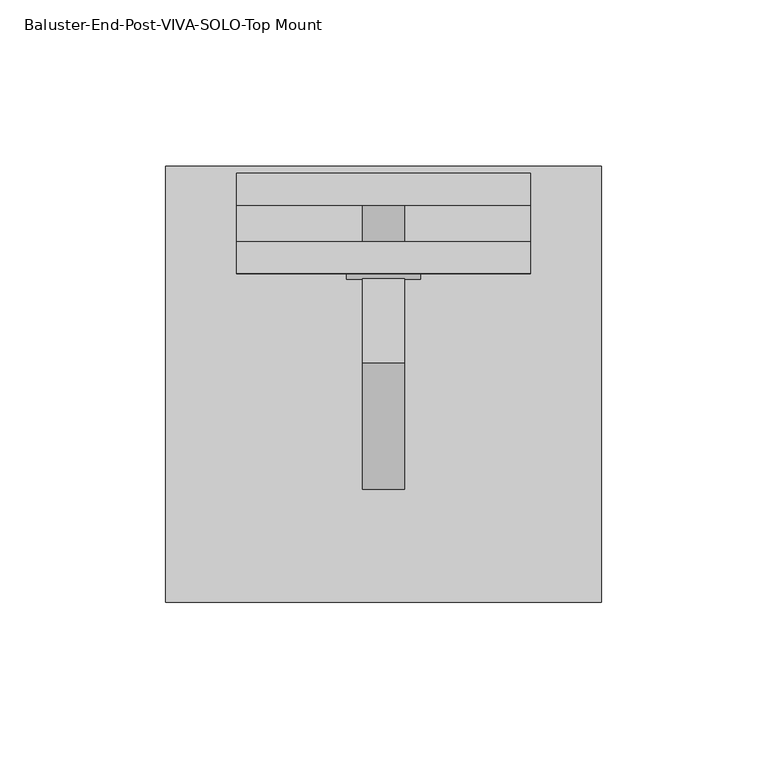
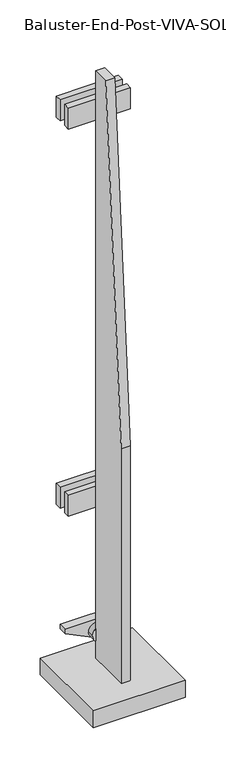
"""IFC4 building model written with IfcOpenShell, lengths in millimetres: proxy geometry, Baluster-End-Post-VIVA-SOLO-Top Mount : ANCHORED TO CONCRETE_TOP MOUNT FOLD_STRAIGHT."""

import ifcopenshell
import ifcopenshell.guid

model = None  # the IFC model being written
_history = None  # IfcOwnerHistory: only IFC2X3 demands one
_inside = {}  # id of a spatial element -> (the spatial element, [elements in it])
_under = {}  # id of a project, library or spatial element -> (it, [spatial elements below it])
_declared = {}  # id of a project -> (the project, [libraries it declares])
_typed = {}  # id of a type object -> (the type object, [elements of that type])
_made_of = {}  # id of a material, layer set ... -> (it, [elements and type objects made of it])


def new_model(schema):
    """Start an empty IFC model of exactly this schema.

    Asked for "IFC4X3", IfcOpenShell would pick the latest addendum, in which some entities
    have other attributes; the version numbers below select the first issue.
    IFC2X3 requires an IfcOwnerHistory on every rooted entity: one is made here for all.
    """
    global model, _history
    if schema == "IFC4X3":
        model = ifcopenshell.file(schema_version=(4, 3, 0, 0))
    else:
        model = ifcopenshell.file(schema=schema)
    _inside.clear()
    _under.clear()
    _declared.clear()
    _typed.clear()
    _made_of.clear()
    _history = None
    if model.schema == "IFC2X3":
        org = make("IfcOrganization", Name="unknown")
        user = make(
            "IfcPersonAndOrganization",
            ThePerson=make("IfcPerson", FamilyName="unknown"),
            TheOrganization=org,
        )
        app = make(
            "IfcApplication",
            ApplicationDeveloper=org,
            Version="unknown",
            ApplicationFullName="unknown",
            ApplicationIdentifier="unknown",
        )
        _history = make(
            "IfcOwnerHistory",
            OwningUser=user,
            OwningApplication=app,
            ChangeAction="ADDED",
            CreationDate=0,
        )
    return model


def make(cls, **values):
    """One entity of the class cls with the attributes given. An attribute that is None is left unset."""
    return model.create_entity(
        cls, **{name: value for name, value in values.items() if value is not None}
    )


def rooted(cls, **values):
    """An entity with a GlobalId (a new one), such as an element, a storey or a relation."""
    return make(cls, GlobalId=ifcopenshell.guid.new(), OwnerHistory=_history, **values)


def si_unit(unit_type, name, prefix=None):
    """IfcSIUnit, for example si_unit("LENGTHUNIT", "METRE", prefix="MILLI")."""
    return make("IfcSIUnit", UnitType=unit_type, Prefix=prefix, Name=name)


def assignment(units):
    """IfcUnitAssignment: the units of a project."""
    return None if units is None else make("IfcUnitAssignment", Units=units)


def point(xyz):
    """IfcCartesianPoint."""
    return None if xyz is None else make("IfcCartesianPoint", Coordinates=xyz)


def direction(xyz):
    """IfcDirection."""
    return None if xyz is None else make("IfcDirection", DirectionRatios=xyz)


def frame(location, z_axis=None, x_axis=None):
    """IfcAxis2Placement3D, a coordinate frame: its origin and axes. An axis left out is left unset."""
    return make(
        "IfcAxis2Placement3D",
        Location=point(location),
        Axis=direction(z_axis),
        RefDirection=direction(x_axis),
    )


def frame_2d(location, x_axis=None):
    """IfcAxis2Placement2D, a coordinate frame in the plane: its origin and x axis."""
    return make(
        "IfcAxis2Placement2D", Location=point(location), RefDirection=direction(x_axis)
    )


def origin():
    """The frame at (0, 0, 0) with its axes left unset."""
    return frame((0.0, 0.0, 0.0))


def place(relative_to, where):
    """IfcLocalPlacement: puts the frame where relative to a parent placement (None: the world)."""
    return make(
        "IfcLocalPlacement", PlacementRelTo=relative_to, RelativePlacement=where
    )


def context(
    kind, dimensions, precision=None, world=None, true_north=None, identifier=None
):
    """IfcGeometricRepresentationContext, for example the 3D "Model" context."""
    return make(
        "IfcGeometricRepresentationContext",
        ContextIdentifier=identifier,
        ContextType=kind,
        CoordinateSpaceDimension=dimensions,
        Precision=precision,
        WorldCoordinateSystem=world,
        TrueNorth=true_north,
    )


def project(units=None, contexts=None):
    """IfcProject with its units and contexts."""
    return rooted(
        "IfcProject",
        Name="project",
        RepresentationContexts=contexts,
        UnitsInContext=assignment(units),
    )


def spatial(cls, under=None, at=None, **own):
    """A site, building, storey or space (cls), placed at a placement, below another one or the project."""
    s = rooted(cls, ObjectPlacement=at, **own)
    if under is not None:
        _under.setdefault(under.id(), (under, []))[1].append(s)
    return s


def polyline(points):
    """IfcPolyline through the points."""
    return make("IfcPolyline", Points=[point(p) for p in points])


def circle_curve(where, radius):
    """IfcCircle in the frame where."""
    return make("IfcCircle", Position=where, Radius=radius)


def trimmed(basis, trim1, trim2, sense, master):
    """IfcTrimmedCurve: the piece of a basis curve between two trims."""
    return make(
        "IfcTrimmedCurve",
        BasisCurve=basis,
        Trim1=trim1,
        Trim2=trim2,
        SenseAgreement=sense,
        MasterRepresentation=master,
    )


def segment(curve, same_sense, transition):
    """IfcCompositeCurveSegment."""
    return make(
        "IfcCompositeCurveSegment",
        Transition=transition,
        SameSense=same_sense,
        ParentCurve=curve,
    )


def composite_curve(segments, self_intersect=None):
    """IfcCompositeCurve: segments joined end to end."""
    return make("IfcCompositeCurve", Segments=segments, SelfIntersect=self_intersect)


def outline(outer, holes=None, kind="AREA"):
    """IfcArbitraryClosedProfileDef: a profile drawn as a closed curve; with holes, ...WithVoids."""
    if holes is None:
        return make("IfcArbitraryClosedProfileDef", ProfileType=kind, OuterCurve=outer)
    return make(
        "IfcArbitraryProfileDefWithVoids",
        ProfileType=kind,
        OuterCurve=outer,
        InnerCurves=holes,
    )


def extrude(swept, where, along, depth):
    """IfcExtrudedAreaSolid: the profile swept, set in the frame where, extruded along a direction by depth."""
    return make(
        "IfcExtrudedAreaSolid",
        SweptArea=swept,
        Position=where,
        ExtrudedDirection=direction(along),
        Depth=depth,
    )


def shape(context_of_items, identifier, shape_type, items):
    """IfcShapeRepresentation: the items that make up one representation, for example the "Body"."""
    return make(
        "IfcShapeRepresentation",
        ContextOfItems=context_of_items,
        RepresentationIdentifier=identifier,
        RepresentationType=shape_type,
        Items=items,
    )


def source(mapping_origin, context_of_items, identifier, shape_type, items):
    """IfcRepresentationMap: a shape defined once, which mapped items show again and again."""
    return make(
        "IfcRepresentationMap",
        MappingOrigin=mapping_origin,
        MappedRepresentation=shape(context_of_items, identifier, shape_type, items),
    )


def transform(
    local_origin,
    x_axis=None,
    y_axis=None,
    z_axis=None,
    scale=None,
    scale2=None,
    scale3=None,
    uniform=True,
):
    """IfcCartesianTransformationOperator3D, or its non-uniform kind. x_axis, y_axis, z_axis: its Axis1, 2, 3."""
    if uniform:
        return make(
            "IfcCartesianTransformationOperator3D",
            Axis1=direction(x_axis),
            Axis2=direction(y_axis),
            LocalOrigin=point(local_origin),
            Scale=scale,
            Axis3=direction(z_axis),
        )
    return make(
        "IfcCartesianTransformationOperator3DnonUniform",
        Axis1=direction(x_axis),
        Axis2=direction(y_axis),
        LocalOrigin=point(local_origin),
        Scale=scale,
        Axis3=direction(z_axis),
        Scale2=scale2,
        Scale3=scale3,
    )


def mapped(mapping_source, mapping_target):
    """IfcMappedItem: shows the shape of a source again, moved by a transform."""
    return make(
        "IfcMappedItem", MappingSource=mapping_source, MappingTarget=mapping_target
    )


def made_of(thing, what):
    """Note that an element or type object is made of a material, layer set ...; save() writes the relation."""
    if what is not None:
        _made_of.setdefault(what.id(), (what, []))[1].append(thing)
    return thing


def element(
    cls,
    number,
    at=None,
    inside=None,
    cuts=None,
    type_object=None,
    material=None,
    context=None,
    identifier="Body",
    shape_type=None,
    held_by="IfcProductDefinitionShape",
    body=None,
    shapes=None,
    **own,
):
    """One element of the class cls, such as IfcWall. Its Tag is "e" and its number.

    at: its placement. inside: the storey or other place that contains it. cuts: it is an
    opening in that element (IfcRelVoidsElement). A single representation is given by context,
    identifier, shape_type and body (its items); several are given by shapes. held_by: the class
    of the entity that holds the representations. save() writes the other relations.
    """
    e = rooted(cls, Tag="e%d" % number, ObjectPlacement=at, **own)
    if body is not None:
        shapes = [shape(context, identifier, shape_type, body)]
    if shapes is not None:
        e.Representation = make(held_by, Representations=shapes)
    if inside is not None:
        _inside.setdefault(inside.id(), (inside, []))[1].append(e)
    if cuts is not None:
        rooted(
            "IfcRelVoidsElement", RelatingBuildingElement=cuts, RelatedOpeningElement=e
        )
    if type_object is not None:
        _typed.setdefault(type_object.id(), (type_object, []))[1].append(e)
    return made_of(e, material)


def aggregate(whole, parts):
    """IfcRelAggregates: a whole, such as a stair, and the parts it consists of."""
    return rooted("IfcRelAggregates", RelatingObject=whole, RelatedObjects=parts)


def save(model, path):
    """Write the relations noted so far, then the file.

    IfcRelAggregates (storeys below a building ...), IfcRelContainedInSpatialStructure (elements
    in a storey), IfcRelDefinesByType, IfcRelAssociatesMaterial and IfcRelDeclares: one each for
    every whole, place, type object, material and project.
    """
    for whole, parts in _under.values():
        aggregate(whole, parts)
    for where, things in _inside.values():
        rooted(
            "IfcRelContainedInSpatialStructure",
            RelatedElements=things,
            RelatingStructure=where,
        )
    for kind, things in _typed.values():
        rooted("IfcRelDefinesByType", RelatedObjects=things, RelatingType=kind)
    for what, things in _made_of.values():
        rooted("IfcRelAssociatesMaterial", RelatedObjects=things, RelatingMaterial=what)
    for by, libraries in _declared.values():
        rooted("IfcRelDeclares", RelatingContext=by, RelatedDefinitions=libraries)
    model.write(path)


def baluster_end_post_viva_solo_top_mount_67941749(model_context):
    return source(origin(), model_context, "Body", "SweptSolid", [
        extrude(outline(composite_curve([segment(trimmed(circle_curve(frame_2d((268.5208758, 152.4)), 6.35), [point((268.5208758, 146.05))], [point((268.5208758, 158.75))], False, "CARTESIAN"), True, "CONTINUOUS"), segment(trimmed(circle_curve(frame_2d((268.5208758, 152.4)), 6.35), [point((268.5208758, 158.75))], [point((268.5208758, 146.05))], False, "CARTESIAN"), True, "CONTINUOUS")], self_intersect=False)), frame((0.0, -42.5925389, 0.0), z_axis=(0.0, 1.0, 0.0), x_axis=(0.0, 0.0, 1.0)), (0.0, 0.0, 1.0), 12.7),
        extrude(outline(composite_curve([segment(trimmed(circle_curve(frame_2d((854.776764, 152.4)), 6.35), [point((854.776764, 146.05))], [point((854.776764, 158.75))], False, "CARTESIAN"), True, "CONTINUOUS"), segment(trimmed(circle_curve(frame_2d((854.776764, 152.4)), 6.35), [point((854.776764, 158.75))], [point((854.776764, 146.05))], False, "CARTESIAN"), True, "CONTINUOUS")], self_intersect=False)), frame((0.0, -42.5925389, 0.0), z_axis=(0.0, 1.0, 0.0), x_axis=(0.0, 0.0, 1.0)), (0.0, 0.0, 1.0), 12.7),
        extrude(outline(composite_curve([segment(trimmed(circle_curve(frame_2d((60.8777263, 152.4)), 11.1125), [point((60.8777263, 141.2875))], [point((60.8777263, 163.5125))], False, "CARTESIAN"), True, "CONTINUOUS"), segment(trimmed(circle_curve(frame_2d((60.8777263, 152.4)), 11.1125), [point((60.8777263, 163.5125))], [point((60.8777263, 141.2875))], False, "CARTESIAN"), True, "CONTINUOUS")], self_intersect=False)), frame((0.0, -52.1175389, 0.0), z_axis=(0.0, 1.0, 0.0), x_axis=(0.0, 0.0, 1.0)), (0.0, 0.0, 1.0), 25.4),
        extrude(outline(polyline([(-52.1175389, 914.8205071), (-52.1175389, 0.4205071), (-115.6175389, 0.4205071), (-115.6175389, 381.4205071), (-77.5175389, 914.8205071), (-52.1175389, 914.8205071)])), frame((146.05, 0.0, 0.0), z_axis=(1.0, 0.0, 0.0), x_axis=(0.0, 1.0, 0.0)), (0.0, 0.0, 1.0), 12.7),
        extrude(outline(polyline([(196.85, -20.3675389), (196.85, -29.8925389), (107.95, -29.8925389), (107.95, -20.3675389), (196.85, -20.3675389)])), frame((0.0, 0.0, 838.7824344), z_axis=(0.0, 0.0, 1.0), x_axis=(1.0, 0.0, 0.0)), (0.0, 0.0, 1.0), 31.75),
        extrude(outline(polyline([(196.85, -20.3675389), (196.85, -29.8925389), (107.95, -29.8925389), (107.95, -20.3675389), (196.85, -20.3675389)])), frame((0.0, 0.0, 252.4484609), z_axis=(0.0, 0.0, 1.0), x_axis=(1.0, 0.0, 0.0)), (0.0, 0.0, 1.0), 31.75),
        extrude(outline(polyline([(70.3302675, 107.95), (48.4156188, 152.4), (70.3302675, 196.85), (76.6802675, 196.85), (76.6802675, 107.95), (70.3302675, 107.95)])), frame((0.0, -42.5925389, 0.0), z_axis=(0.0, 1.0, 0.0), x_axis=(0.0, 0.0, 1.0)), (0.0, 0.0, 1.0), 12.7),
        extrude(outline(polyline([(196.85, -40.984781), (196.85, -50.509781), (107.95, -50.509781), (107.95, -40.984781), (196.85, -40.984781)])), frame((0.0, 0.0, 838.7824344), z_axis=(0.0, 0.0, 1.0), x_axis=(1.0, 0.0, 0.0)), (0.0, 0.0, 1.0), 31.75),
        extrude(outline(polyline([(196.85, -40.984781), (196.85, -50.509781), (107.95, -50.509781), (107.95, -40.984781), (196.85, -40.984781)])), frame((0.0, 0.0, 252.4484609), z_axis=(0.0, 0.0, 1.0), x_axis=(1.0, 0.0, 0.0)), (0.0, 0.0, 1.0), 31.75),
        extrude(outline(polyline([(86.51875, -17.9862889), (218.28125, -17.9862889), (218.28125, -149.7487889), (86.51875, -149.7487889), (86.51875, -17.9862889)])), frame((0.0, 0.0, 0.4205071), z_axis=(0.0, 0.0, 1.0), x_axis=(1.0, 0.0, 0.0)), (0.0, 0.0, 1.0), 25.4),
    ])


if __name__ == "__main__":
    model = new_model("IFC4")
    model_context = context("Model", 3, world=origin())
    ifc_project = project(units=[si_unit("LENGTHUNIT", "METRE", prefix="MILLI")], contexts=[model_context])
    site = spatial("IfcSite", under=ifc_project)
    building = spatial("IfcBuilding", under=site)
    placement = place(None, origin())
    baluster_end_post_viva_solo_top_mount_shape = baluster_end_post_viva_solo_top_mount_67941749(model_context)
    element("IfcBuildingElementProxy", 1, Name="Baluster-End-Post-VIVA-SOLO-Top Mount : ANCHORED TO CONCRETE_TOP MOUNT FOLD_STRAIGHT", ObjectType="Baluster-End-Post-VIVA-SOLO-Top Mount : ANCHORED TO CONCRETE_TOP MOUNT FOLD_STRAIGHT", at=placement, inside=building, context=model_context, shape_type="MappedRepresentation", body=[
        mapped(baluster_end_post_viva_solo_top_mount_shape, transform((0.0, 0.0, 0.0), x_axis=(1.0, 0.0, 0.0), y_axis=(0.0, 1.0, 0.0), z_axis=(0.0, 0.0, 1.0))),
    ])
    save(model, "model.ifc")
